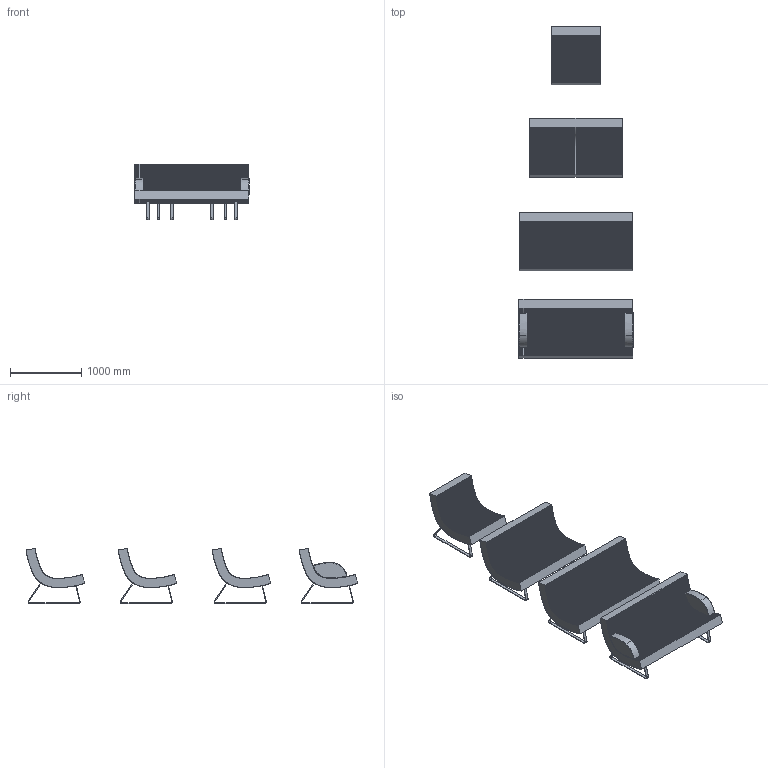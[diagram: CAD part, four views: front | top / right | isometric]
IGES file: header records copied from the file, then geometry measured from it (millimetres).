
Start section: Data from Parasolid IGES Translator,  Copyright (c) 2006 UGS Corp. All R ights Reserved.
Global section: file name: s220 curve 3d.igs; native system:  By UGS Corp.; preprocessor: XPlus GENERIC/IGES 3.0; author: Noname; organization: Noname; date: 20130506.183615; units: metre
Bounding box: 1605.51 x 4660.6 x 772.85 mm (x, y, z)
Volume: 728285618.2 mm3; surface area: 14894968.6 mm2
Topology: 14 solids, 14 shells, 6304 faces, 18820 edges, 12544 vertices
Faces by surface type: plane 6244, cylinder 36, bspline 24
